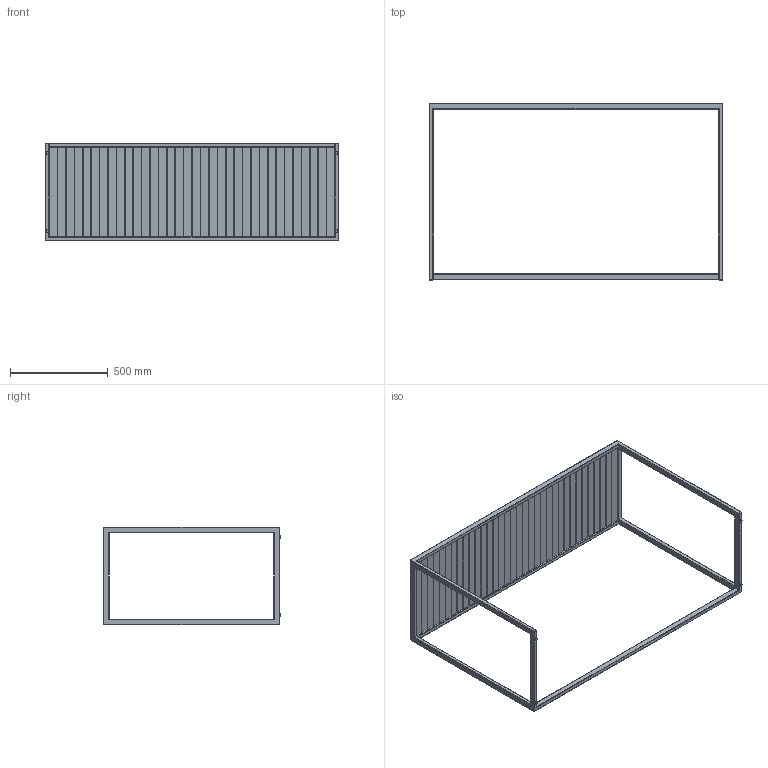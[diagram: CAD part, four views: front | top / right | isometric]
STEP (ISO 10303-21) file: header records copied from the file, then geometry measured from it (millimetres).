
FILE_DESCRIPTION(/* description */ (''),/* implementation_level */ '2;1');
FILE_NAME(/* name */ 'C:\INVENTOR\Workspace\# ARKITEKT FILER\Open Bistro\Open Bistro 150x50\Bistro 150x50.stp',/* time_stamp */ '2020-05-26T15:12:52+02:00',/* author */ ('Röshults'),/* organization */ (''),/* preprocessor_version */ 'ST-DEVELOPER v17.2',/* originating_system */ 'Autodesk Inventor 2019',/* authorisation */ '');
FILE_SCHEMA (('AUTOMOTIVE_DESIGN { 1 0 10303 214 3 1 1 }'));
Length unit declared in the file: millimetre
Products named in the file (1): Bistro 150x50
Bounding box: 1500 x 905 x 500 mm (x, y, z)
Volume: 19520709.5 mm3; surface area: 2931278.8 mm2
Topology: 35 solids, 35 shells, 364 faces, 786 edges, 510 vertices
Faces by surface type: plane 294, cylinder 56, torus 8, sphere 6
Full cylindrical faces by diameter (mm): 10.5 x8, 15 x4
Entity records: 9975 total; most frequent: CARTESIAN_POINT 1661, DIRECTION 1628, ORIENTED_EDGE 1572, EDGE_CURVE 786, LINE 674, VECTOR 674, VERTEX_POINT 510, AXIS2_PLACEMENT_3D 477
